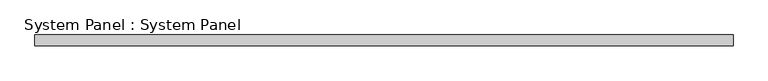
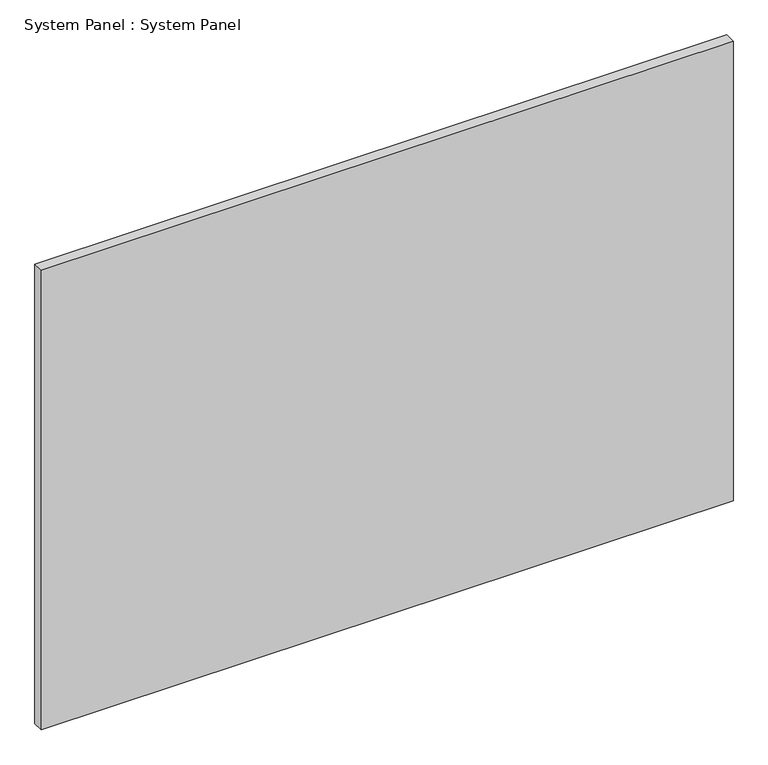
"""IFC4 building model written with IfcOpenShell, lengths in millimetres: plate geometry, System Panel : System Panel."""

from ifc_helpers import new_model, si_unit, origin, origin_with_axes, place, context, project, spatial, polyline, outline, extrude, source, transform, mapped, element, save


def system_panel_system_panel_025269df(model_context):
    return source(origin(), model_context, "Body", "SweptSolid", [
        extrude(outline(polyline([(800.1, 19.05), (-800.1, 19.05), (-800.1, 44.45), (800.1, 44.45), (800.1, 19.05)])), origin_with_axes(), (0.0, 0.0, 1.0), 1123.95),
    ])


if __name__ == "__main__":
    model = new_model("IFC4")
    model_context = context("Model", 3, world=origin())
    ifc_project = project(units=[si_unit("LENGTHUNIT", "METRE", prefix="MILLI")], contexts=[model_context])
    site = spatial("IfcSite", under=ifc_project)
    building = spatial("IfcBuilding", under=site)
    placement = place(None, origin())
    system_panel_system_panel_shape = system_panel_system_panel_025269df(model_context)
    element("IfcPlate", 1, ObjectType="System Panel : System Panel", at=placement, inside=building, context=model_context, shape_type="MappedRepresentation", body=[
        mapped(system_panel_system_panel_shape, transform((0.0, 0.0, 0.0), x_axis=(1.0, 0.0, 0.0), y_axis=(0.0, 1.0, 0.0), z_axis=(0.0, 0.0, 1.0))),
    ])
    save(model, "model.ifc")
